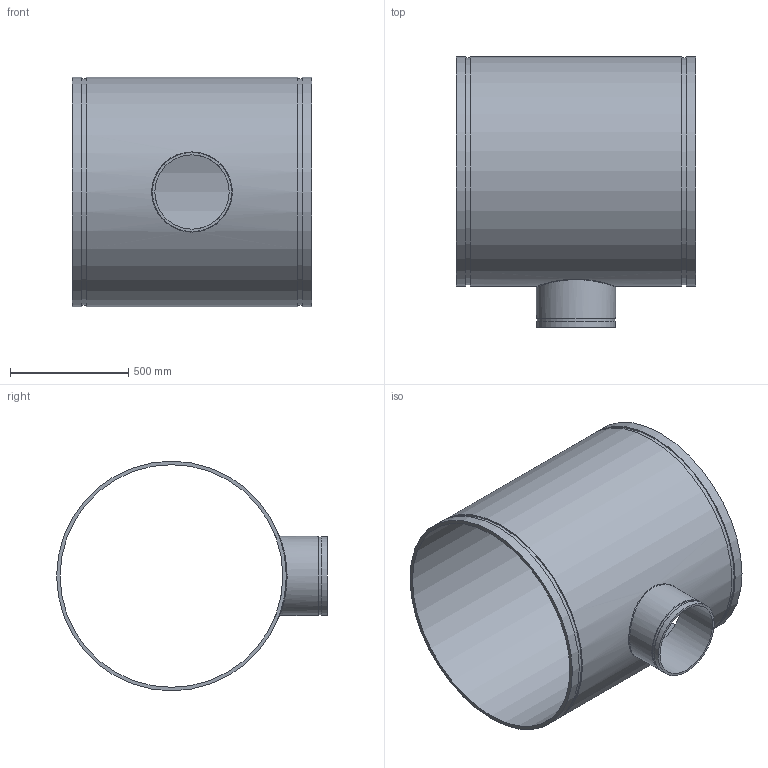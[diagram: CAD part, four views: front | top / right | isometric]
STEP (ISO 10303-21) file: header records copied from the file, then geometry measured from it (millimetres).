
FILE_DESCRIPTION(/* description */ ('VIC REDUCING TEE No 25-C','CAx-IF Rec.Pracs.---Representation and Presentation of Product Manufacturing Information (PMI)---4.0---2014-10-13'),/* implementation_level */ '2;1');
FILE_NAME(/* name */ 'C:\Users\Vjadhav\AppData\Roaming\Autodesk\ApplicationPlugins\Back Up\Victaulic_AWWA_Tee Reducing_No 25-C (DRG)\Victaulic_AWWA_Tee Reducing_No 25-C (DRG)_36.0x12.0 (900x300).stp',/* time_stamp */ '2020-08-18T18:19:31+06:00',/* author */ ('CORINNE GRAY'),/* organization */ ('Victaulic'),/* preprocessor_version */ 'ST-DEVELOPER v17.2',/* originating_system */ 'Autodesk Inventor 2019',/* authorisation */ '');
FILE_SCHEMA (('AP242_MANAGED_MODEL_BASED_3D_ENGINEERING_MIM_LF { 1 0 10303 442 1 1 4 }'));
Length unit declared in the file: inch
Products named in the file (1): 25C-36.0x12.0
Bounding box: 1016 x 1146.81 x 972.82 mm (x, y, z)
Volume: 45130306.6 mm3; surface area: 6519983.4 mm2
Topology: 1 solids, 1 shells, 20 faces, 44 edges, 33 vertices
Faces by surface type: cylinder 10, plane 9, bspline 1
Full cylindrical faces by diameter (mm): 314.96 x1, 327.812 x1, 335.28 x2, 943.356 x1, 961.39 x2, 972.82 x3
Entity records: 1003 total; most frequent: CARTESIAN_POINT 379, DIRECTION 135, ORIENTED_EDGE 90, AXIS2_PLACEMENT_3D 62, EDGE_CURVE 45, VERTEX_POINT 34, EDGE_LOOP 31, CIRCLE 29
